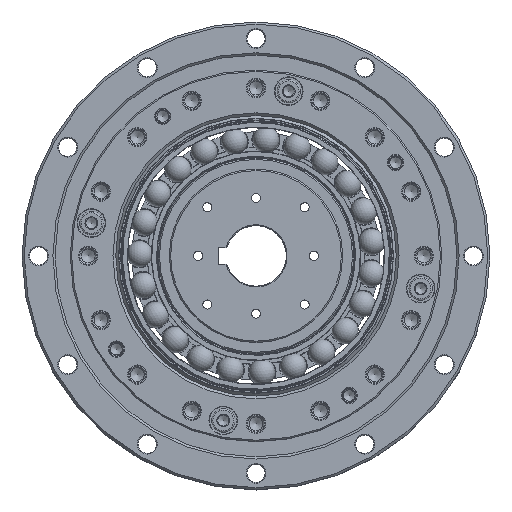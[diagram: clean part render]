
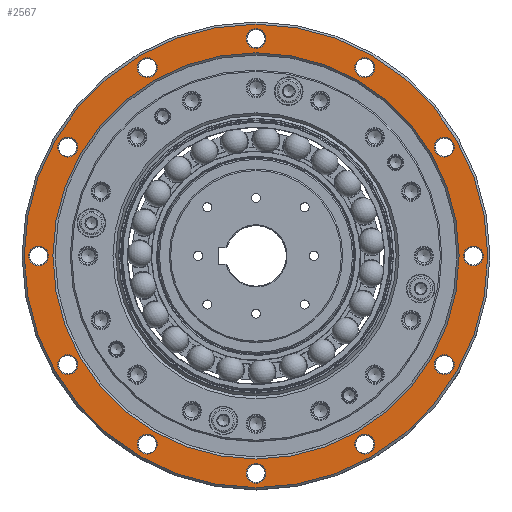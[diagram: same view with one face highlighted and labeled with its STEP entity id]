
A CAD part, top view. The second image highlights one B-rep face of the part: STEP entity #2567.
In plain terms, the highlighted planar face has unit normal (0, 0, 1).
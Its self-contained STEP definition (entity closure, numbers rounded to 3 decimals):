
#2567=ADVANCED_FACE('',(#3793,#3794,#3795,#3796,#3797,#3798,#3799,#3800,
#3801,#3802,#3803,#3804,#3805,#3806),#2986,.F.);
#2986=PLANE('',#11063);
#3793=FACE_BOUND('',#4868,.T.);
#3794=FACE_BOUND('',#4869,.T.);
#3795=FACE_BOUND('',#4870,.T.);
#3796=FACE_BOUND('',#4871,.T.);
#3797=FACE_BOUND('',#4872,.T.);
#3798=FACE_BOUND('',#4873,.T.);
#3799=FACE_BOUND('',#4874,.T.);
#3800=FACE_BOUND('',#4875,.T.);
#3801=FACE_BOUND('',#4876,.T.);
#3802=FACE_BOUND('',#4877,.T.);
#3803=FACE_BOUND('',#4878,.T.);
#3804=FACE_BOUND('',#4879,.T.);
#3805=FACE_BOUND('',#4880,.T.);
#3806=FACE_BOUND('',#4881,.T.);
#4868=EDGE_LOOP('',(#6119));
#4869=EDGE_LOOP('',(#6120));
#4870=EDGE_LOOP('',(#6121));
#4871=EDGE_LOOP('',(#6122));
#4872=EDGE_LOOP('',(#6123));
#4873=EDGE_LOOP('',(#6124));
#4874=EDGE_LOOP('',(#6125));
#4875=EDGE_LOOP('',(#6126));
#4876=EDGE_LOOP('',(#6127));
#4877=EDGE_LOOP('',(#6128));
#4878=EDGE_LOOP('',(#6129));
#4879=EDGE_LOOP('',(#6130));
#4880=EDGE_LOOP('',(#6131));
#4881=EDGE_LOOP('',(#6132));
#6119=ORIENTED_EDGE('',*,*,#8874,.T.);
#6120=ORIENTED_EDGE('',*,*,#8875,.T.);
#6121=ORIENTED_EDGE('',*,*,#8876,.T.);
#6122=ORIENTED_EDGE('',*,*,#8877,.T.);
#6123=ORIENTED_EDGE('',*,*,#8878,.T.);
#6124=ORIENTED_EDGE('',*,*,#8879,.T.);
#6125=ORIENTED_EDGE('',*,*,#8880,.T.);
#6126=ORIENTED_EDGE('',*,*,#8881,.T.);
#6127=ORIENTED_EDGE('',*,*,#8882,.T.);
#6128=ORIENTED_EDGE('',*,*,#8883,.T.);
#6129=ORIENTED_EDGE('',*,*,#8884,.T.);
#6130=ORIENTED_EDGE('',*,*,#8885,.T.);
#6131=ORIENTED_EDGE('',*,*,#8886,.F.);
#6132=ORIENTED_EDGE('',*,*,#8873,.T.);
#7964=VERTEX_POINT('',#16109);
#7965=VERTEX_POINT('',#16112);
#7966=VERTEX_POINT('',#16114);
#7967=VERTEX_POINT('',#16116);
#7968=VERTEX_POINT('',#16118);
#7969=VERTEX_POINT('',#16120);
#7970=VERTEX_POINT('',#16122);
#7971=VERTEX_POINT('',#16124);
#7972=VERTEX_POINT('',#16126);
#7973=VERTEX_POINT('',#16128);
#7974=VERTEX_POINT('',#16130);
#7975=VERTEX_POINT('',#16132);
#7976=VERTEX_POINT('',#16134);
#7977=VERTEX_POINT('',#16136);
#8873=EDGE_CURVE('',#7964,#7964,#9954,.T.);
#8874=EDGE_CURVE('',#7965,#7965,#9955,.T.);
#8875=EDGE_CURVE('',#7966,#7966,#9956,.T.);
#8876=EDGE_CURVE('',#7967,#7967,#9957,.T.);
#8877=EDGE_CURVE('',#7968,#7968,#9958,.T.);
#8878=EDGE_CURVE('',#7969,#7969,#9959,.T.);
#8879=EDGE_CURVE('',#7970,#7970,#9960,.T.);
#8880=EDGE_CURVE('',#7971,#7971,#9961,.T.);
#8881=EDGE_CURVE('',#7972,#7972,#9962,.T.);
#8882=EDGE_CURVE('',#7973,#7973,#9963,.T.);
#8883=EDGE_CURVE('',#7974,#7974,#9964,.T.);
#8884=EDGE_CURVE('',#7975,#7975,#9965,.T.);
#8885=EDGE_CURVE('',#7976,#7976,#9966,.T.);
#8886=EDGE_CURVE('',#7977,#7977,#9967,.T.);
#9954=CIRCLE('',#11048,73.8);
#9955=CIRCLE('',#11050,3.6);
#9956=CIRCLE('',#11051,3.6);
#9957=CIRCLE('',#11052,3.6);
#9958=CIRCLE('',#11053,3.6);
#9959=CIRCLE('',#11054,3.6);
#9960=CIRCLE('',#11055,3.6);
#9961=CIRCLE('',#11056,3.6);
#9962=CIRCLE('',#11057,3.6);
#9963=CIRCLE('',#11058,3.6);
#9964=CIRCLE('',#11059,3.6);
#9965=CIRCLE('',#11060,3.6);
#9966=CIRCLE('',#11061,3.6);
#9967=CIRCLE('',#11062,84.2);
#11048=AXIS2_PLACEMENT_3D('',#16108,#13191,#13192);
#11050=AXIS2_PLACEMENT_3D('',#16111,#13195,#13196);
#11051=AXIS2_PLACEMENT_3D('',#16113,#13197,#13198);
#11052=AXIS2_PLACEMENT_3D('',#16115,#13199,#13200);
#11053=AXIS2_PLACEMENT_3D('',#16117,#13201,#13202);
#11054=AXIS2_PLACEMENT_3D('',#16119,#13203,#13204);
#11055=AXIS2_PLACEMENT_3D('',#16121,#13205,#13206);
#11056=AXIS2_PLACEMENT_3D('',#16123,#13207,#13208);
#11057=AXIS2_PLACEMENT_3D('',#16125,#13209,#13210);
#11058=AXIS2_PLACEMENT_3D('',#16127,#13211,#13212);
#11059=AXIS2_PLACEMENT_3D('',#16129,#13213,#13214);
#11060=AXIS2_PLACEMENT_3D('',#16131,#13215,#13216);
#11061=AXIS2_PLACEMENT_3D('',#16133,#13217,#13218);
#11062=AXIS2_PLACEMENT_3D('',#16135,#13219,#13220);
#11063=AXIS2_PLACEMENT_3D('',#16137,#13221,#13222);
#13191=DIRECTION('',(0.,0.,-1.));
#13192=DIRECTION('',(-1.,0.,0.));
#13195=DIRECTION('',(0.,0.,-1.));
#13196=DIRECTION('',(-1.,0.,0.));
#13197=DIRECTION('',(0.,0.,-1.));
#13198=DIRECTION('',(-1.,0.,0.));
#13199=DIRECTION('',(0.,0.,-1.));
#13200=DIRECTION('',(-1.,0.,0.));
#13201=DIRECTION('',(0.,0.,-1.));
#13202=DIRECTION('',(-1.,0.,0.));
#13203=DIRECTION('',(0.,0.,-1.));
#13204=DIRECTION('',(-1.,0.,0.));
#13205=DIRECTION('',(0.,0.,-1.));
#13206=DIRECTION('',(-1.,0.,0.));
#13207=DIRECTION('',(0.,0.,-1.));
#13208=DIRECTION('',(-1.,0.,0.));
#13209=DIRECTION('',(0.,0.,-1.));
#13210=DIRECTION('',(-1.,0.,0.));
#13211=DIRECTION('',(0.,0.,-1.));
#13212=DIRECTION('',(-1.,0.,0.));
#13213=DIRECTION('',(0.,0.,-1.));
#13214=DIRECTION('',(-1.,0.,0.));
#13215=DIRECTION('',(0.,0.,-1.));
#13216=DIRECTION('',(-1.,0.,0.));
#13217=DIRECTION('',(0.,0.,-1.));
#13218=DIRECTION('',(-1.,0.,0.));
#13219=DIRECTION('',(0.,0.,-1.));
#13220=DIRECTION('',(-1.,0.,0.));
#13221=DIRECTION('',(0.,0.,-1.));
#13222=DIRECTION('',(-1.,0.,0.));
#16108=CARTESIAN_POINT('',(0.,0.,29.));
#16109=CARTESIAN_POINT('',(-73.8,0.,29.));
#16111=CARTESIAN_POINT('',(39.5,-68.416,29.));
#16112=CARTESIAN_POINT('',(35.9,-68.416,29.));
#16113=CARTESIAN_POINT('',(68.416,-39.5,29.));
#16114=CARTESIAN_POINT('',(64.816,-39.5,29.));
#16115=CARTESIAN_POINT('',(79.,0.,29.));
#16116=CARTESIAN_POINT('',(75.4,0.,29.));
#16117=CARTESIAN_POINT('',(68.416,39.5,29.));
#16118=CARTESIAN_POINT('',(64.816,39.5,29.));
#16119=CARTESIAN_POINT('',(39.5,68.416,29.));
#16120=CARTESIAN_POINT('',(35.9,68.416,29.));
#16121=CARTESIAN_POINT('',(0.,79.,29.));
#16122=CARTESIAN_POINT('',(-3.6,79.,29.));
#16123=CARTESIAN_POINT('',(-39.5,68.416,29.));
#16124=CARTESIAN_POINT('',(-43.1,68.416,29.));
#16125=CARTESIAN_POINT('',(-68.416,39.5,29.));
#16126=CARTESIAN_POINT('',(-72.016,39.5,29.));
#16127=CARTESIAN_POINT('',(-79.,0.,29.));
#16128=CARTESIAN_POINT('',(-82.6,0.,29.));
#16129=CARTESIAN_POINT('',(-68.416,-39.5,29.));
#16130=CARTESIAN_POINT('',(-72.016,-39.5,29.));
#16131=CARTESIAN_POINT('',(-39.5,-68.416,29.));
#16132=CARTESIAN_POINT('',(-43.1,-68.416,29.));
#16133=CARTESIAN_POINT('',(0.,-79.,29.));
#16134=CARTESIAN_POINT('',(-3.6,-79.,29.));
#16135=CARTESIAN_POINT('',(0.,0.,29.));
#16136=CARTESIAN_POINT('',(-84.2,0.,29.));
#16137=CARTESIAN_POINT('',(73.8,0.,29.));
